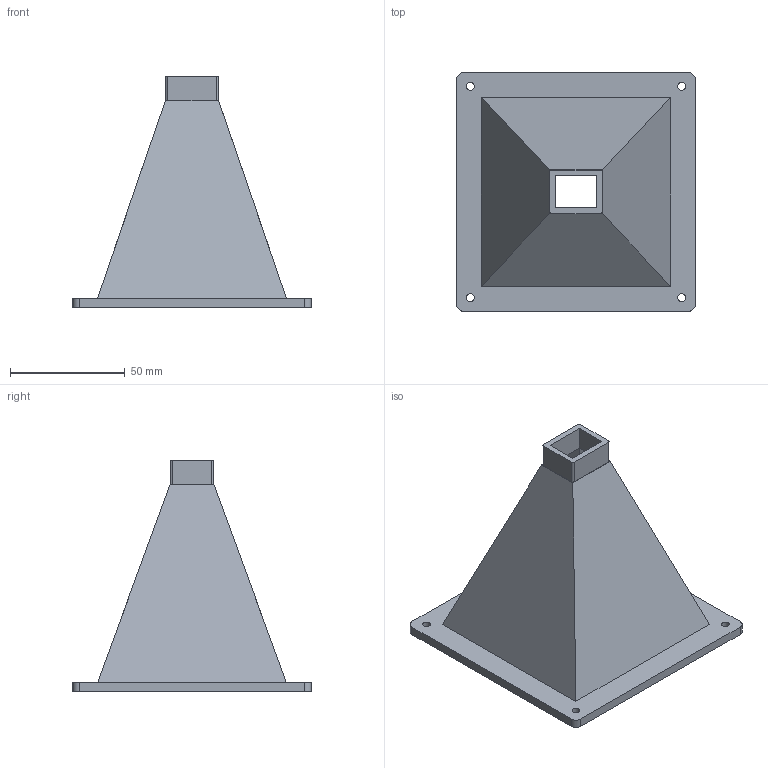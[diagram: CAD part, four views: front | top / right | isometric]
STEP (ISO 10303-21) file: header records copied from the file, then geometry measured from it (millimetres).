
FILE_DESCRIPTION(('Open CASCADE Model'),'2;1');
FILE_NAME('Open CASCADE Shape Model','2026-10-22T00:34:12',('Author'),( 'Open CASCADE'),'Open CASCADE STEP processor 7.8','Open CASCADE 7.8' ,'Unknown');
FILE_SCHEMA(('AUTOMOTIVE_DESIGN { 1 0 10303 214 1 1 1 1 }'));
Length unit declared in the file: millimetre
Products named in the file (1): Open CASCADE STEP translator 7.8 1
Bounding box: 104 x 104 x 100.5 mm (x, y, z)
Volume: 63286.6 mm3; surface area: 49123 mm2
Topology: 1 solids, 1 shells, 36 faces, 92 edges, 60 vertices
Faces by surface type: plane 16, cylinder 12, bspline 8
Full cylindrical faces by diameter (mm): 3.4 x4
Entity records: 2320 total; most frequent: CARTESIAN_POINT 553, DIRECTION 292, ORIENTED_EDGE 184, PCURVE 184, DEFINITIONAL_REPRESENTATION 184, LINE 180, VECTOR 180, EDGE_CURVE 92
